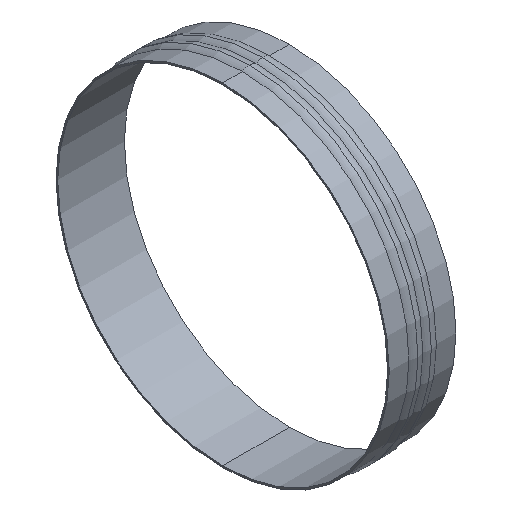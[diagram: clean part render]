
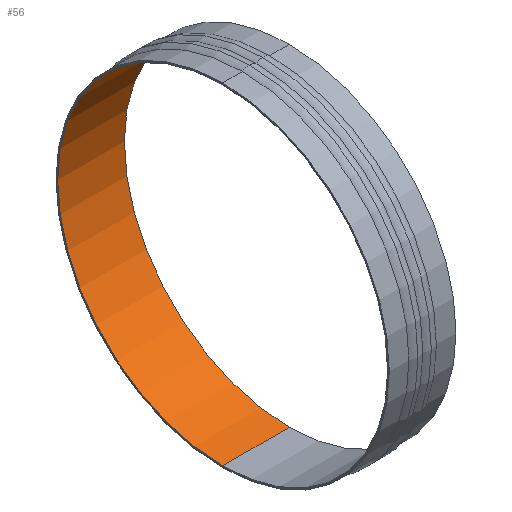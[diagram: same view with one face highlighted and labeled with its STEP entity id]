
A CAD part, isometric view. The second image highlights one B-rep face of the part: STEP entity #56.
In plain terms, the highlighted cylindrical face has radius 396 mm (diameter 792 mm), a partial arc.
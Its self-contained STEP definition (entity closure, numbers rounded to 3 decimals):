
#56=ADVANCED_FACE('',(#113),#114,.F.);
#113=FACE_OUTER_BOUND('',#170,.T.);
#114=CYLINDRICAL_SURFACE('',#171,396.0);
#170=EDGE_LOOP('',(#261,#262,#263,#264));
#171=AXIS2_PLACEMENT_3D('',#265,#266,#267);
#261=ORIENTED_EDGE('',*,*,#356,.F.);
#262=ORIENTED_EDGE('',*,*,#357,.F.);
#263=ORIENTED_EDGE('',*,*,#358,.F.);
#264=ORIENTED_EDGE('',*,*,#359,.F.);
#265=CARTESIAN_POINT('',(0.0,0.0,0.0));
#266=DIRECTION('',(1.0,0.0,0.0));
#267=DIRECTION('',(0.0,0.0,-1.0));
#356=EDGE_CURVE('',#418,#419,#420,.T.);
#357=EDGE_CURVE('',#421,#418,#422,.T.);
#358=EDGE_CURVE('',#423,#421,#424,.T.);
#359=EDGE_CURVE('',#419,#423,#425,.T.);
#418=VERTEX_POINT('',#488);
#419=VERTEX_POINT('',#489);
#420=LINE('',#490,#491);
#421=VERTEX_POINT('',#492);
#422=CIRCLE('',#493,396.0);
#423=VERTEX_POINT('',#494);
#424=LINE('',#495,#496);
#425=CIRCLE('',#497,396.0);
#488=CARTESIAN_POINT('',(80.0,0.,-396.0));
#489=CARTESIAN_POINT('',(-80.0,0.,-396.0));
#490=CARTESIAN_POINT('',(0.0,0.,-396.0));
#491=VECTOR('',#571,1.0);
#492=CARTESIAN_POINT('',(80.0,0.,396.0));
#493=AXIS2_PLACEMENT_3D('',#572,#573,#574);
#494=CARTESIAN_POINT('',(-80.0,0.,396.0));
#495=CARTESIAN_POINT('',(0.0,0.,396.0));
#496=VECTOR('',#575,1.0);
#497=AXIS2_PLACEMENT_3D('',#576,#577,#578);
#571=DIRECTION('',(-1.0,0.0,0.0));
#572=CARTESIAN_POINT('',(80.0,0.0,0.0));
#573=DIRECTION('',(-1.0,-0.0,-0.0));
#574=DIRECTION('',(0.0,0.0,-1.0));
#575=DIRECTION('',(1.0,0.0,0.0));
#576=CARTESIAN_POINT('',(-80.0,0.0,0.0));
#577=DIRECTION('',(1.0,0.0,0.0));
#578=DIRECTION('',(0.0,0.0,-1.0));
